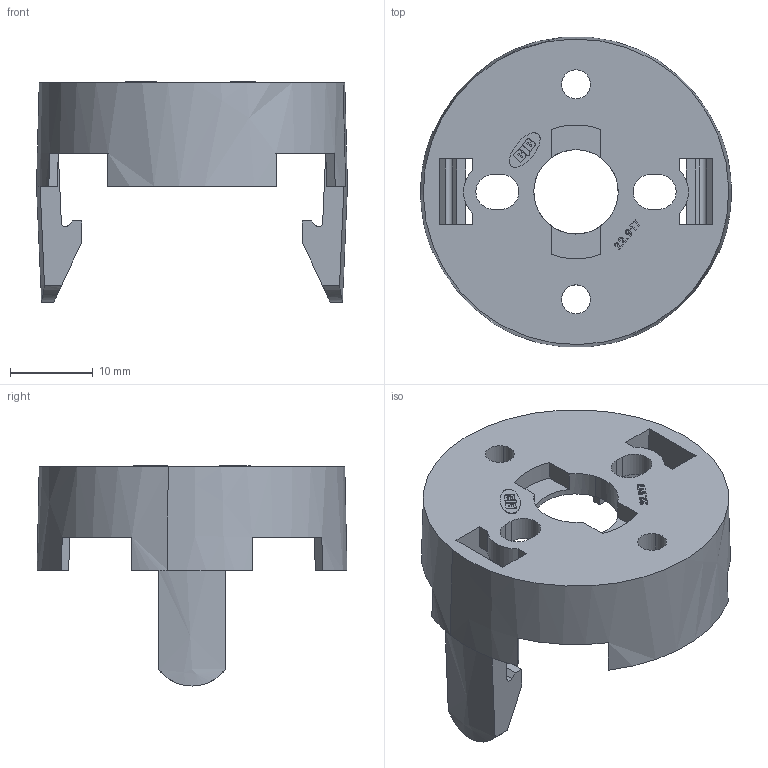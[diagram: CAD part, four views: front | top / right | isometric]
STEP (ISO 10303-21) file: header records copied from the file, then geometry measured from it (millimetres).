
FILE_DESCRIPTION(('CAx-IF Rec.Pracs.---Model Styling and Organization---1.2---2011-12-15','CAx-IF Rec.Pracs.---Geometric and Assembly Validation Properties---4.1---2014-06-16','CAx-IF Rec.Pracs.---PMI Polyline Presentation---2.0---2013-05-24'),'2;1');
FILE_NAME('008YC02Z06.stp','2016-02-03T13:08:54+01:00',(''),(''),'STEP Interface 4.0 Sp1 by CT CoreTechnologie','3D_Evolution4.0 Sp1 by CT CoreTechnologie','');
FILE_SCHEMA(('AP203_CONFIGURATION_CONTROLLED_3D_DESIGN_OF_MECHANICAL_PARTS_AND_ASSEMBLIES_MIM_LF'));
Length unit declared in the file: millimetre
Products named in the file (1): 22_917_-013
Bounding box: 37.58 x 37.47 x 26.6 mm (x, y, z)
Volume: 4749.7 mm3; surface area: 5331.2 mm2
Topology: 1 solids, 1 shells, 269 faces, 754 edges, 500 vertices
Faces by surface type: plane 221, cylinder 34, bspline 14
Entity records: 8765 total; most frequent: CARTESIAN_POINT 1758, ORIENTED_EDGE 1508, DIRECTION 1354, EDGE_CURVE 754, VECTOR 634, LINE 634, VERTEX_POINT 500, AXIS2_PLACEMENT_3D 360
